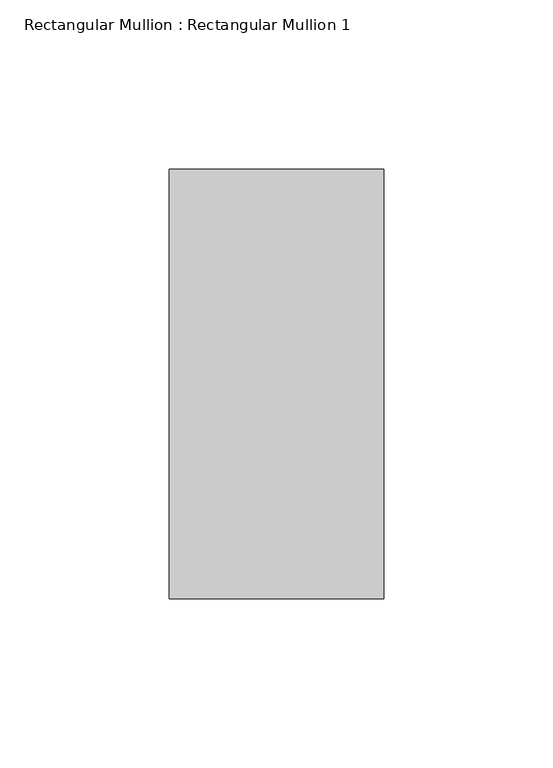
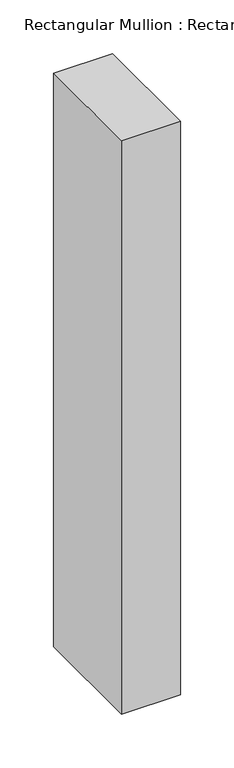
"""IFC4 building model written with IfcOpenShell, lengths in millimetres: member geometry, Rectangular Mullion : Rectangular Mullion 1."""

from ifc_helpers import new_model, si_unit, frame, origin, place, context, project, spatial, polyline, outline, extrude, source, transform, mapped, element, save


def rectangular_mullion_rectangular_mullion_1_6a789495(model_context):
    return source(origin(), model_context, "Body", "SweptSolid", [
        extrude(outline(polyline([(0.0, 63.5), (0.0, -63.5), (-63.5, -63.5), (-63.5, 63.5), (0.0, 63.5)])), frame((0.0, 0.0, -653.1666665), z_axis=(0.0, 0.0, 1.0), x_axis=(1.0, 0.0, 0.0)), (0.0, 0.0, 1.0), 653.1666665),
    ])


if __name__ == "__main__":
    model = new_model("IFC4")
    model_context = context("Model", 3, world=origin())
    ifc_project = project(units=[si_unit("LENGTHUNIT", "METRE", prefix="MILLI")], contexts=[model_context])
    site = spatial("IfcSite", under=ifc_project)
    building = spatial("IfcBuilding", under=site)
    placement = place(None, origin())
    rectangular_mullion_rectangular_mullion_1_shape = rectangular_mullion_rectangular_mullion_1_6a789495(model_context)
    element("IfcMember", 1, ObjectType="Rectangular Mullion : Rectangular Mullion 1", at=placement, inside=building, context=model_context, shape_type="MappedRepresentation", body=[
        mapped(rectangular_mullion_rectangular_mullion_1_shape, transform((0.0, 0.0, 0.0), x_axis=(1.0, 0.0, 0.0), y_axis=(0.0, 1.0, 0.0), z_axis=(0.0, 0.0, 1.0))),
    ])
    save(model, "model.ifc")
